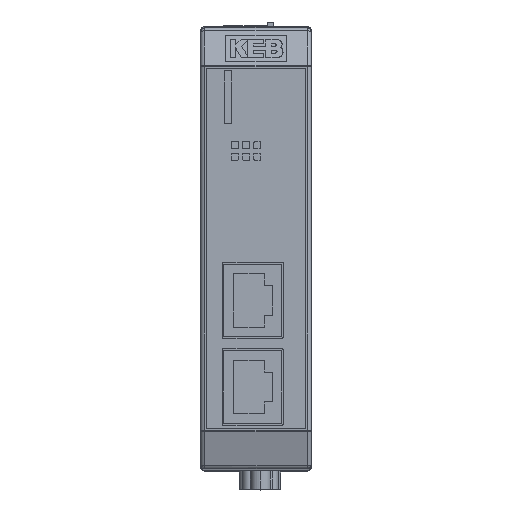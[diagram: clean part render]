
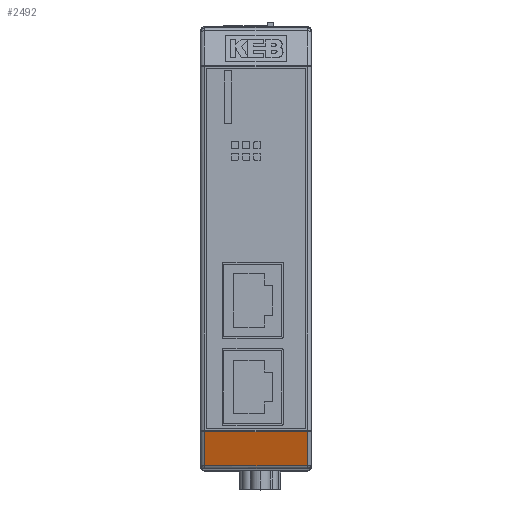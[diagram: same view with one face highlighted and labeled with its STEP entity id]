
A CAD part, top view. The second image highlights one B-rep face of the part: STEP entity #2492.
In plain terms, the highlighted planar face has unit normal (0, -0.292, 0.956).
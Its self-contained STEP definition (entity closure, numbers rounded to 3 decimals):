
#369 = EDGE_CURVE ( 'NONE', #10156, #8175, #8664, .T. ) ;
#1476 = CARTESIAN_POINT ( 'NONE',  ( -11.5, -99.011, 136.847 ) ) ;
#1618 = CARTESIAN_POINT ( 'NONE',  ( -11.5, -91.293, 139.206 ) ) ;
#1697 = DIRECTION ( 'NONE',  ( -1., 0., 0. ) ) ;
#1764 = ORIENTED_EDGE ( 'NONE', *, *, #5852, .F. ) ;
#2492 = ADVANCED_FACE ( 'NONE', ( #8754 ), #2867, .F. ) ;
#2643 = CARTESIAN_POINT ( 'NONE',  ( 11.5, -99.011, 136.847 ) ) ;
#2867 = PLANE ( 'NONE',  #7424 ) ;
#3020 = DIRECTION ( 'NONE',  ( 0., 0.292, -0.956 ) ) ;
#3646 = ORIENTED_EDGE ( 'NONE', *, *, #369, .T. ) ;
#3769 = EDGE_CURVE ( 'NONE', #10563, #13641, #11171, .T. ) ;
#3820 = ORIENTED_EDGE ( 'NONE', *, *, #3769, .T. ) ;
#5852 = EDGE_CURVE ( 'NONE', #10563, #8175, #10905, .T. ) ;
#6573 = CARTESIAN_POINT ( 'NONE',  ( 11.5, -91.293, 139.206 ) ) ;
#6586 = CARTESIAN_POINT ( 'NONE',  ( 11.5, -99.011, 136.847 ) ) ;
#6667 = CARTESIAN_POINT ( 'NONE',  ( 11.5, -96.439, 137.633 ) ) ;
#6881 = EDGE_LOOP ( 'NONE', ( #3820, #13758, #3646, #1764 ) ) ;
#7424 = AXIS2_PLACEMENT_3D ( 'NONE', #6586, #3020, #1697 ) ;
#7954 = B_SPLINE_CURVE_WITH_KNOTS ( 'NONE', 1,
 ( #2643, #1476 ),
 .UNSPECIFIED., .F., .F.,
 ( 2, 2 ),
 ( 0., 1. ),
 .UNSPECIFIED. ) ;
#8175 = VERTEX_POINT ( 'NONE', #6573 ) ;
#8664 = B_SPLINE_CURVE_WITH_KNOTS ( 'NONE', 3,
 ( #10149, #6667, #11384, #13793 ),
 .UNSPECIFIED., .F., .F.,
 ( 4, 4 ),
 ( 0., 1. ),
 .UNSPECIFIED. ) ;
#8754 = FACE_OUTER_BOUND ( 'NONE', #6881, .T. ) ;
#9846 = CARTESIAN_POINT ( 'NONE',  ( -11.5, -91.293, 139.206 ) ) ;
#10019 = CARTESIAN_POINT ( 'NONE',  ( -11.5, -99.011, 136.847 ) ) ;
#10138 = CARTESIAN_POINT ( 'NONE',  ( 11.5, -99.011, 136.847 ) ) ;
#10149 = CARTESIAN_POINT ( 'NONE',  ( 11.5, -99.011, 136.847 ) ) ;
#10156 = VERTEX_POINT ( 'NONE', #10138 ) ;
#10563 = VERTEX_POINT ( 'NONE', #13801 ) ;
#10741 = EDGE_CURVE ( 'NONE', #10156, #13641, #7954, .T. ) ;
#10905 = B_SPLINE_CURVE_WITH_KNOTS ( 'NONE', 1,
 ( #9846, #12395 ),
 .UNSPECIFIED., .F., .F.,
 ( 2, 2 ),
 ( 0., 1. ),
 .UNSPECIFIED. ) ;
#11140 = CARTESIAN_POINT ( 'NONE',  ( -11.5, -96.439, 137.633 ) ) ;
#11171 = B_SPLINE_CURVE_WITH_KNOTS ( 'NONE', 3,
 ( #1618, #12158, #11140, #13549 ),
 .UNSPECIFIED., .F., .F.,
 ( 4, 4 ),
 ( 0., 1. ),
 .UNSPECIFIED. ) ;
#11384 = CARTESIAN_POINT ( 'NONE',  ( 11.5, -93.866, 138.42 ) ) ;
#12158 = CARTESIAN_POINT ( 'NONE',  ( -11.5, -93.866, 138.42 ) ) ;
#12395 = CARTESIAN_POINT ( 'NONE',  ( 11.5, -91.293, 139.206 ) ) ;
#13549 = CARTESIAN_POINT ( 'NONE',  ( -11.5, -99.011, 136.847 ) ) ;
#13641 = VERTEX_POINT ( 'NONE', #10019 ) ;
#13758 = ORIENTED_EDGE ( 'NONE', *, *, #10741, .F. ) ;
#13793 = CARTESIAN_POINT ( 'NONE',  ( 11.5, -91.293, 139.206 ) ) ;
#13801 = CARTESIAN_POINT ( 'NONE',  ( -11.5, -91.293, 139.206 ) ) ;
